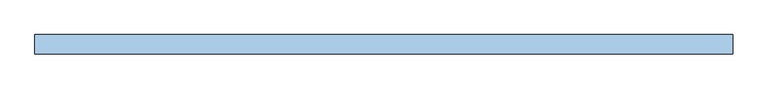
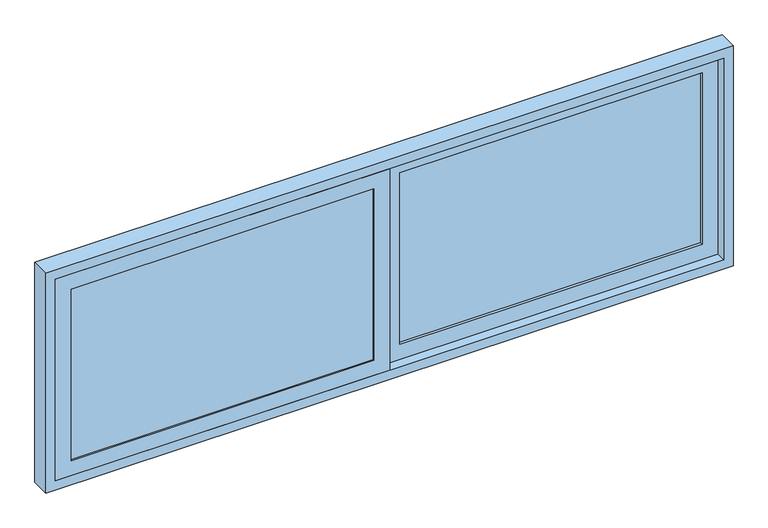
"""IFC4 building model written with IfcOpenShell, lengths in millimetres: window geometry, Janela Correr (bancada)- 2 folhas.GLE : 216X70 h=17 (Abrir 2 folhas)."""

from ifc_helpers import new_model, si_unit, frame, origin, place, context, project, spatial, polyline, outline, extrude, source, transform, mapped, element, save


def window_e4890519(model_context):
    return source(origin(), model_context, "Body", "SweptSolid", [
        extrude(outline(polyline([(1000.0, -1080.0), (1000.0, 1080.0), (1730.0, 1080.0), (1730.0, -1080.0), (1000.0, -1080.0)]), holes=[polyline([(1700.0, -1050.0), (1700.0, 1050.0), (1030.0, 1050.0), (1030.0, -1050.0), (1700.0, -1050.0)])]), frame((0.0, -30.0, 0.0), z_axis=(0.0, 1.0, 0.0), x_axis=(0.0, 0.0, 1.0)), (0.0, 0.0, 1.0), 60.0),
        extrude(outline(polyline([(-50.0, -25.0), (-1000.0, -25.0), (-1000.0, -15.0), (-50.0, -15.0), (-50.0, -25.0)])), frame((0.0, 0.0, 1080.0), z_axis=(0.0, 0.0, 1.0), x_axis=(1.0, 0.0, 0.0)), (0.0, 0.0, 1.0), 570.0),
        extrude(outline(polyline([(1000.0, 10.0), (50.0, 10.0), (50.0, 20.0), (1000.0, 20.0), (1000.0, 10.0)])), frame((0.0, 0.0, 1080.0), z_axis=(0.0, 0.0, 1.0), x_axis=(1.0, 0.0, 0.0)), (0.0, 0.0, 1.0), 570.0),
        extrude(outline(polyline([(1700.0, 0.0), (1030.0, 0.0), (1030.0, 1050.0), (1700.0, 1050.0), (1700.0, 0.0)]), holes=[polyline([(1650.0, 50.0), (1650.0, 1000.0), (1080.0, 1000.0), (1080.0, 50.0), (1650.0, 50.0)])]), frame((0.0, 0.0, 0.0), z_axis=(0.0, 1.0, 0.0), x_axis=(0.0, 0.0, 1.0)), (0.0, 0.0, 1.0), 30.0),
        extrude(outline(polyline([(1700.0, -1050.0), (1030.0, -1050.0), (1030.0, 0.0), (1700.0, 0.0), (1700.0, -1050.0)]), holes=[polyline([(1650.0, -1000.0), (1650.0, -50.0), (1080.0, -50.0), (1080.0, -1000.0), (1650.0, -1000.0)])]), frame((0.0, -30.0, 0.0), z_axis=(0.0, 1.0, 0.0), x_axis=(0.0, 0.0, 1.0)), (0.0, 0.0, 1.0), 30.0),
    ])


if __name__ == "__main__":
    model = new_model("IFC4")
    model_context = context("Model", 3, world=origin())
    ifc_project = project(units=[si_unit("LENGTHUNIT", "METRE", prefix="MILLI")], contexts=[model_context])
    site = spatial("IfcSite", under=ifc_project)
    building = spatial("IfcBuilding", under=site)
    placement = place(None, origin())
    window_shape = window_e4890519(model_context)
    element("IfcWindow", 1, ObjectType="Janela Correr (bancada)- 2 folhas.GLE : 216X70 h=17 (Abrir 2 folhas)", at=placement, inside=building, context=model_context, shape_type="MappedRepresentation", body=[
        mapped(window_shape, transform((0.0, 0.0, 0.0), x_axis=(1.0, 0.0, 0.0), y_axis=(0.0, 1.0, 0.0), z_axis=(0.0, 0.0, 1.0))),
    ])
    save(model, "model.ifc")
